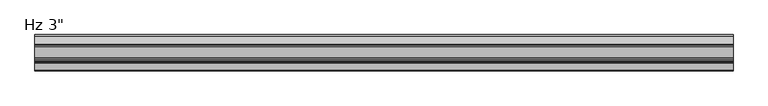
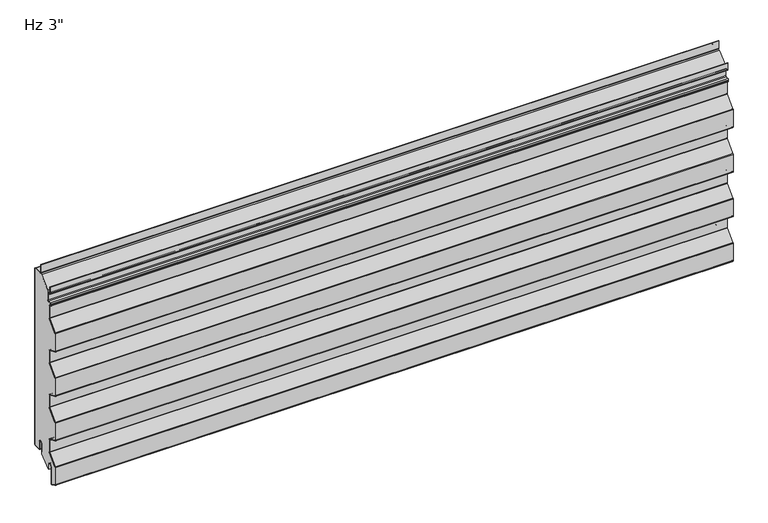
"""IFC4 building model written with IfcOpenShell, lengths in millimetres: plate geometry."""

from ifc_helpers import new_model, si_unit, point, frame, frame_2d, origin, place, context, project, spatial, polyline, circle_curve, trimmed, segment, composite_curve, outline, extrude, source, transform, mapped, element, save


def plate_fe4b7c26(model_context):
    return source(origin(), model_context, "Body", "SweptSolid", [
        extrude(outline(composite_curve([segment(polyline([(-26.4011912, 19.05), (-26.4011912, -3.1976612), (-49.233822, -23.01875), (-51.3886912, -23.01875), (-51.3886912, -11.90625)]), True, "CONTINUOUS"), segment(trimmed(circle_curve(frame_2d((-56.3574412, -11.90625)), 4.96875), [point((-51.3886912, -11.90625))], [point((-61.3261912, -11.90625))], True, "CARTESIAN"), True, "CONTINUOUS"), segment(polyline([(-61.3261912, -11.90625), (-61.3261912, -48.8194049)]), True, "CONTINUOUS"), segment(trimmed(circle_curve(frame_2d((-62.7074412, -48.8194049)), 1.38125), [point((-61.3261912, -48.8194049))], [point((-63.2666208, -50.0824052))], False, "CARTESIAN"), True, "CONTINUOUS"), segment(polyline([(-63.2666208, -50.0824052), (-74.3779296, -45.1629946)]), True, "CONTINUOUS"), segment(trimmed(circle_curve(frame_2d((-73.81875, -43.8999943)), 1.38125), [point((-74.3779296, -45.1629946))], [point((-75.2, -43.8999943))], False, "CARTESIAN"), True, "CONTINUOUS"), segment(polyline([(-75.2, -43.8999943), (-75.2, -5.0536946)]), True, "CONTINUOUS"), segment(trimmed(circle_curve(frame_2d((-73.1012, -5.0536946)), 2.0988), [point((-75.2, -5.0536946))], [point((-74.6092077, -3.5939431))], False, "CARTESIAN"), True, "CONTINUOUS"), segment(polyline([(-74.6092077, -3.5939431), (-54.4145567, 17.2682996)]), True, "CONTINUOUS"), segment(trimmed(circle_curve(frame_2d((-56.2737, 19.0679503)), 2.5875), [point((-54.4145567, 17.2682996))], [point((-53.6862, 19.0679503))], True, "CARTESIAN"), True, "CONTINUOUS"), segment(polyline([(-53.6862, 19.0679503), (-53.6862, 45.5917981)]), True, "CONTINUOUS"), segment(trimmed(circle_curve(frame_2d((-56.2737, 45.5917981)), 2.5875), [point((-53.6862, 45.5917981))], [point((-55.2261871, 47.9577806))], True, "CARTESIAN"), True, "CONTINUOUS"), segment(polyline([(-55.2261871, 47.9577806), (-74.3779296, 56.4370054)]), True, "CONTINUOUS"), segment(trimmed(circle_curve(frame_2d((-73.81875, 57.7000057)), 1.38125), [point((-74.3779296, 56.4370054))], [point((-75.2, 57.7000057))], False, "CARTESIAN"), True, "CONTINUOUS"), segment(polyline([(-75.2, 57.7000057), (-75.2, 96.8367131)]), True, "CONTINUOUS"), segment(trimmed(circle_curve(frame_2d((-73.81875, 96.8367131)), 1.38125), [point((-75.2, 96.8367131))], [point((-74.8111912, 97.7973962))], False, "CARTESIAN"), True, "CONTINUOUS"), segment(polyline([(-74.8111912, 97.7973962), (-54.4145567, 118.8682996)]), True, "CONTINUOUS"), segment(trimmed(circle_curve(frame_2d((-56.2737, 120.6679503)), 2.5875), [point((-54.4145567, 118.8682996))], [point((-53.6862, 120.6679503))], True, "CARTESIAN"), True, "CONTINUOUS"), segment(polyline([(-53.6862, 120.6679503), (-53.6862, 147.1917981)]), True, "CONTINUOUS"), segment(trimmed(circle_curve(frame_2d((-56.2737, 147.1917981)), 2.5875), [point((-53.6862, 147.1917981))], [point((-55.2261871, 149.5577806))], True, "CARTESIAN"), True, "CONTINUOUS"), segment(polyline([(-55.2261871, 149.5577806), (-74.3779296, 158.0370054)]), True, "CONTINUOUS"), segment(trimmed(circle_curve(frame_2d((-73.81875, 159.3000057)), 1.38125), [point((-74.3779296, 158.0370054))], [point((-75.2, 159.3000057))], False, "CARTESIAN"), True, "CONTINUOUS"), segment(polyline([(-75.2, 159.3000057), (-75.2, 198.4367131)]), True, "CONTINUOUS"), segment(trimmed(circle_curve(frame_2d((-73.81875, 198.4367131)), 1.38125), [point((-75.2, 198.4367131))], [point((-74.8111912, 199.3973962))], False, "CARTESIAN"), True, "CONTINUOUS"), segment(polyline([(-74.8111912, 199.3973962), (-54.4145567, 220.4682996)]), True, "CONTINUOUS"), segment(trimmed(circle_curve(frame_2d((-56.2737, 222.2679503)), 2.5875), [point((-54.4145567, 220.4682996))], [point((-53.6862, 222.2679503))], True, "CARTESIAN"), True, "CONTINUOUS"), segment(polyline([(-53.6862, 222.2679503), (-53.6862, 248.7917981)]), True, "CONTINUOUS"), segment(trimmed(circle_curve(frame_2d((-56.2737, 248.7917981)), 2.5875), [point((-53.6862, 248.7917981))], [point((-55.2261871, 251.1577806))], True, "CARTESIAN"), True, "CONTINUOUS"), segment(polyline([(-55.2261871, 251.1577806), (-74.3779296, 259.6370054)]), True, "CONTINUOUS"), segment(trimmed(circle_curve(frame_2d((-73.81875, 260.9000057)), 1.38125), [point((-74.3779296, 259.6370054))], [point((-75.2, 260.9000057))], False, "CARTESIAN"), True, "CONTINUOUS"), segment(polyline([(-75.2, 260.9000057), (-75.2, 300.0367131)]), True, "CONTINUOUS"), segment(trimmed(circle_curve(frame_2d((-73.81875, 300.0367131)), 1.38125), [point((-75.2, 300.0367131))], [point((-74.8111912, 300.9973962))], False, "CARTESIAN"), True, "CONTINUOUS"), segment(polyline([(-74.8111912, 300.9973962), (-54.4145567, 322.0682996)]), True, "CONTINUOUS"), segment(trimmed(circle_curve(frame_2d((-56.2737, 323.8679503)), 2.5875), [point((-54.4145567, 322.0682996))], [point((-53.6862, 323.8679503))], True, "CARTESIAN"), True, "CONTINUOUS"), segment(polyline([(-53.6862, 323.8679503), (-53.6862, 350.3917981)]), True, "CONTINUOUS"), segment(trimmed(circle_curve(frame_2d((-56.2737, 350.3917981)), 2.5875), [point((-53.6862, 350.3917981))], [point((-55.2261871, 352.7577806))], True, "CARTESIAN"), True, "CONTINUOUS"), segment(polyline([(-55.2261871, 352.7577806), (-56.9166208, 353.5062016)]), True, "CONTINUOUS"), segment(trimmed(circle_curve(frame_2d((-56.3574412, 354.7692019)), 1.38125), [point((-56.9166208, 353.5062016))], [point((-57.7386912, 354.7692019))], False, "CARTESIAN"), True, "CONTINUOUS"), segment(polyline([(-57.7386912, 354.7692019), (-57.7386912, 357.0967085)]), True, "CONTINUOUS"), segment(trimmed(circle_curve(frame_2d((-56.3574412, 357.0967085)), 1.38125), [point((-57.7386912, 357.0967085))], [point((-56.4297302, 358.4760655))], False, "CARTESIAN"), True, "CONTINUOUS"), segment(polyline([(-56.4297302, 358.4760655), (-50.6657719, 358.7781418)]), True, "CONTINUOUS"), segment(trimmed(circle_curve(frame_2d((-50.8011912, 361.3620957)), 2.5875), [point((-50.6657719, 358.7781418))], [point((-48.2136912, 361.3620957))], True, "CARTESIAN"), True, "CONTINUOUS"), segment(polyline([(-48.2136912, 361.3620957), (-48.2136912, 383.7892934), (-24.8719682, 404.60625), (-2.3824412, 404.60625)]), True, "CONTINUOUS"), segment(trimmed(circle_curve(frame_2d((-2.3824412, 403.225)), 1.38125), [point((-2.3824412, 404.60625))], [point((-1.0011912, 403.225))], False, "CARTESIAN"), True, "CONTINUOUS"), segment(polyline([(-1.0011912, 403.225), (-1.0011912, 3.175)]), True, "CONTINUOUS"), segment(trimmed(circle_curve(frame_2d((-2.3824412, 3.175)), 1.38125), [point((-1.0011912, 3.175))], [point((-2.3824412, 1.79375))], False, "CARTESIAN"), True, "CONTINUOUS"), segment(polyline([(-2.3824412, 1.79375), (-15.0824412, 1.79375)]), True, "CONTINUOUS"), segment(trimmed(circle_curve(frame_2d((-15.0824412, 3.175)), 1.38125), [point((-15.0824412, 1.79375))], [point((-16.4636912, 3.175))], False, "CARTESIAN"), True, "CONTINUOUS"), segment(polyline([(-16.4636912, 3.175), (-16.4636912, 19.05)]), True, "CONTINUOUS"), segment(trimmed(circle_curve(frame_2d((-21.4324412, 19.05)), 4.96875), [point((-16.4636912, 19.05))], [point((-26.4011912, 19.05))], True, "CARTESIAN"), True, "CONTINUOUS")], self_intersect=False)), frame((-730.0, 0.0, 0.0), z_axis=(1.0, 0.0, 0.0), x_axis=(0.0, 1.0, 0.0)), (0.0, 0.0, 1.0), 1460.0),
        extrude(outline(composite_curve([segment(polyline([(-25.4, 0.79375), (-26.4, 0.79375), (-26.4, 19.05)]), True, "CONTINUOUS"), segment(trimmed(circle_curve(frame_2d((-21.43125, 19.05)), 4.96875), [point((-26.4, 19.05))], [point((-16.4625, 19.05))], False, "CARTESIAN"), True, "CONTINUOUS"), segment(polyline([(-16.4625, 19.05), (-16.4625, 3.175)]), True, "CONTINUOUS"), segment(trimmed(circle_curve(frame_2d((-15.08125, 3.175)), 1.38125), [point((-16.4625, 3.175))], [point((-15.08125, 1.79375))], True, "CARTESIAN"), True, "CONTINUOUS"), segment(polyline([(-15.08125, 1.79375), (-2.38125, 1.79375)]), True, "CONTINUOUS"), segment(trimmed(circle_curve(frame_2d((-2.38125, 3.175)), 1.38125), [point((-2.38125, 1.79375))], [point((-1.0, 3.175))], True, "CARTESIAN"), True, "CONTINUOUS"), segment(polyline([(-1.0, 3.175), (-1.0, 403.225)]), True, "CONTINUOUS"), segment(trimmed(circle_curve(frame_2d((-2.38125, 403.225)), 1.38125), [point((-1.0, 403.225))], [point((-2.38125, 404.60625))], True, "CARTESIAN"), True, "CONTINUOUS"), segment(polyline([(-2.38125, 404.60625), (-19.446875, 404.60625)]), True, "CONTINUOUS"), segment(trimmed(circle_curve(frame_2d((-19.446875, 407.19375)), 2.5875), [point((-19.446875, 404.60625))], [point((-22.034375, 407.19375))], False, "CARTESIAN"), True, "CONTINUOUS"), segment(polyline([(-22.034375, 407.19375), (-22.034375, 424.65625), (-21.034375, 424.65625), (-21.034375, 407.19375)]), True, "CONTINUOUS"), segment(trimmed(circle_curve(frame_2d((-19.446875, 407.19375)), 1.5875), [point((-21.034375, 407.19375))], [point((-19.446875, 405.60625))], True, "CARTESIAN"), True, "CONTINUOUS"), segment(polyline([(-19.446875, 405.60625), (-2.38125, 405.60625)]), True, "CONTINUOUS"), segment(trimmed(circle_curve(frame_2d((-2.38125, 403.225)), 2.38125), [point((-2.38125, 405.60625))], [point((0.0, 403.225))], False, "CARTESIAN"), True, "CONTINUOUS"), segment(polyline([(0.0, 403.225), (0.0, 3.175)]), True, "CONTINUOUS"), segment(trimmed(circle_curve(frame_2d((-2.38125, 3.175)), 2.38125), [point((0.0, 3.175))], [point((-2.38125, 0.79375))], False, "CARTESIAN"), True, "CONTINUOUS"), segment(polyline([(-2.38125, 0.79375), (-15.08125, 0.79375)]), True, "CONTINUOUS"), segment(trimmed(circle_curve(frame_2d((-15.08125, 3.175)), 2.38125), [point((-15.08125, 0.79375))], [point((-17.4625, 3.175))], False, "CARTESIAN"), True, "CONTINUOUS"), segment(polyline([(-17.4625, 3.175), (-17.4625, 19.05)]), True, "CONTINUOUS"), segment(trimmed(circle_curve(frame_2d((-21.43125, 19.05)), 3.96875), [point((-17.4625, 19.05))], [point((-25.4, 19.05))], True, "CARTESIAN"), True, "CONTINUOUS"), segment(polyline([(-25.4, 19.05), (-25.4, 0.79375)]), True, "CONTINUOUS")], self_intersect=False)), frame((-730.0, 0.0, 0.0), z_axis=(1.0, 0.0, 0.0), x_axis=(0.0, 1.0, 0.0)), (0.0, 0.0, 1.0), 1460.0),
        extrude(outline(composite_curve([segment(polyline([(-60.3261912, -11.90625), (-60.3261912, -48.8194049)]), True, "CONTINUOUS"), segment(trimmed(circle_curve(frame_2d((-62.7074412, -48.8194049)), 2.38125), [point((-60.3261912, -48.8194049))], [point((-63.6714567, -50.9967946))], False, "CARTESIAN"), True, "CONTINUOUS"), segment(polyline([(-63.6714567, -50.9967946), (-74.7827655, -46.0773839)]), True, "CONTINUOUS"), segment(trimmed(circle_curve(frame_2d((-73.81875, -43.8999943)), 2.38125), [point((-74.7827655, -46.0773839))], [point((-76.2, -43.8999943))], False, "CARTESIAN"), True, "CONTINUOUS"), segment(polyline([(-76.2, -43.8999943), (-76.2, -5.0536946)]), True, "CONTINUOUS"), segment(trimmed(circle_curve(frame_2d((-73.1012, -5.0536946)), 3.0988), [point((-76.2, -5.0536946))], [point((-75.3277172, -2.8984259))], False, "CARTESIAN"), True, "CONTINUOUS"), segment(polyline([(-75.3277172, -2.8984259), (-55.1330662, 17.9638168)]), True, "CONTINUOUS"), segment(trimmed(circle_curve(frame_2d((-56.2737, 19.0679503)), 1.5875), [point((-55.1330662, 17.9638168))], [point((-54.6862, 19.0679503))], True, "CARTESIAN"), True, "CONTINUOUS"), segment(polyline([(-54.6862, 19.0679503), (-54.6862, 45.5917981)]), True, "CONTINUOUS"), segment(trimmed(circle_curve(frame_2d((-56.2737, 45.5917981)), 1.5875), [point((-54.6862, 45.5917981))], [point((-55.631023, 47.0433912))], True, "CARTESIAN"), True, "CONTINUOUS"), segment(polyline([(-55.631023, 47.0433912), (-74.7827655, 55.5226161)]), True, "CONTINUOUS"), segment(trimmed(circle_curve(frame_2d((-73.81875, 57.7000057)), 2.38125), [point((-74.7827655, 55.5226161))], [point((-76.2, 57.7000057))], False, "CARTESIAN"), True, "CONTINUOUS"), segment(polyline([(-76.2, 57.7000057), (-76.2, 96.8367131)]), True, "CONTINUOUS"), segment(trimmed(circle_curve(frame_2d((-73.81875, 96.8367131)), 2.38125), [point((-76.2, 96.8367131))], [point((-75.5297007, 98.4929134))], False, "CARTESIAN"), True, "CONTINUOUS"), segment(polyline([(-75.5297007, 98.4929134), (-55.1330662, 119.5638168)]), True, "CONTINUOUS"), segment(trimmed(circle_curve(frame_2d((-56.2737, 120.6679503)), 1.5875), [point((-55.1330662, 119.5638168))], [point((-54.6862, 120.6679503))], True, "CARTESIAN"), True, "CONTINUOUS"), segment(polyline([(-54.6862, 120.6679503), (-54.6862, 147.1917981)]), True, "CONTINUOUS"), segment(trimmed(circle_curve(frame_2d((-56.2737, 147.1917981)), 1.5875), [point((-54.6862, 147.1917981))], [point((-55.631023, 148.6433912))], True, "CARTESIAN"), True, "CONTINUOUS"), segment(polyline([(-55.631023, 148.6433912), (-74.7827655, 157.1226161)]), True, "CONTINUOUS"), segment(trimmed(circle_curve(frame_2d((-73.81875, 159.3000057)), 2.38125), [point((-74.7827655, 157.1226161))], [point((-76.2, 159.3000057))], False, "CARTESIAN"), True, "CONTINUOUS"), segment(polyline([(-76.2, 159.3000057), (-76.2, 198.4367131)]), True, "CONTINUOUS"), segment(trimmed(circle_curve(frame_2d((-73.81875, 198.4367131)), 2.38125), [point((-76.2, 198.4367131))], [point((-75.5297007, 200.0929134))], False, "CARTESIAN"), True, "CONTINUOUS"), segment(polyline([(-75.5297007, 200.0929134), (-55.1330662, 221.1638168)]), True, "CONTINUOUS"), segment(trimmed(circle_curve(frame_2d((-56.2737, 222.2679503)), 1.5875), [point((-55.1330662, 221.1638168))], [point((-54.6862, 222.2679503))], True, "CARTESIAN"), True, "CONTINUOUS"), segment(polyline([(-54.6862, 222.2679503), (-54.6862, 248.7917981)]), True, "CONTINUOUS"), segment(trimmed(circle_curve(frame_2d((-56.2737, 248.7917981)), 1.5875), [point((-54.6862, 248.7917981))], [point((-55.631023, 250.2433912))], True, "CARTESIAN"), True, "CONTINUOUS"), segment(polyline([(-55.631023, 250.2433912), (-74.7827655, 258.7226161)]), True, "CONTINUOUS"), segment(trimmed(circle_curve(frame_2d((-73.81875, 260.9000057)), 2.38125), [point((-74.7827655, 258.7226161))], [point((-76.2, 260.9000057))], False, "CARTESIAN"), True, "CONTINUOUS"), segment(polyline([(-76.2, 260.9000057), (-76.2, 300.0367131)]), True, "CONTINUOUS"), segment(trimmed(circle_curve(frame_2d((-73.81875, 300.0367131)), 2.38125), [point((-76.2, 300.0367131))], [point((-75.5297007, 301.6929134))], False, "CARTESIAN"), True, "CONTINUOUS"), segment(polyline([(-75.5297007, 301.6929134), (-55.1330662, 322.7638168)]), True, "CONTINUOUS"), segment(trimmed(circle_curve(frame_2d((-56.2737, 323.8679503)), 1.5875), [point((-55.1330662, 322.7638168))], [point((-54.6862, 323.8679503))], True, "CARTESIAN"), True, "CONTINUOUS"), segment(polyline([(-54.6862, 323.8679503), (-54.6862, 350.3917981)]), True, "CONTINUOUS"), segment(trimmed(circle_curve(frame_2d((-56.2737, 350.3917981)), 1.5875), [point((-54.6862, 350.3917981))], [point((-55.631023, 351.8433912))], True, "CARTESIAN"), True, "CONTINUOUS"), segment(polyline([(-55.631023, 351.8433912), (-57.3214567, 352.5918123)]), True, "CONTINUOUS"), segment(trimmed(circle_curve(frame_2d((-56.3574412, 354.7692019)), 2.38125), [point((-57.3214567, 352.5918123))], [point((-58.7386912, 354.7692019))], False, "CARTESIAN"), True, "CONTINUOUS"), segment(polyline([(-58.7386912, 354.7692019), (-58.7386912, 357.0967085)]), True, "CONTINUOUS"), segment(trimmed(circle_curve(frame_2d((-56.3574412, 357.0967085)), 2.38125), [point((-58.7386912, 357.0967085))], [point((-56.4820662, 359.4746951))], False, "CARTESIAN"), True, "CONTINUOUS"), segment(polyline([(-56.4820662, 359.4746951), (-50.7181078, 359.7767713)]), True, "CONTINUOUS"), segment(trimmed(circle_curve(frame_2d((-50.8011912, 361.3620957)), 1.5875), [point((-50.7181078, 359.7767713))], [point((-49.2136912, 361.3620957))], True, "CARTESIAN"), True, "CONTINUOUS"), segment(polyline([(-49.2136912, 361.3620957), (-49.2136912, 376.2375)]), True, "CONTINUOUS"), segment(trimmed(circle_curve(frame_2d((-50.8011912, 376.2375)), 1.5875), [point((-49.2136912, 376.2375))], [point((-50.8011912, 377.825))], True, "CARTESIAN"), True, "CONTINUOUS"), segment(polyline([(-50.8011912, 377.825), (-54.3730662, 377.825)]), True, "CONTINUOUS"), segment(trimmed(circle_curve(frame_2d((-54.3730662, 380.20625)), 2.38125), [point((-54.3730662, 377.825))], [point((-56.7543162, 380.20625))], False, "CARTESIAN"), True, "CONTINUOUS"), segment(polyline([(-56.7543162, 380.20625), (-56.7543162, 394.49375), (-55.7543162, 394.49375), (-55.7543162, 380.20625)]), True, "CONTINUOUS"), segment(trimmed(circle_curve(frame_2d((-54.3730662, 380.20625)), 1.38125), [point((-55.7543162, 380.20625))], [point((-54.3730662, 378.825))], True, "CARTESIAN"), True, "CONTINUOUS"), segment(polyline([(-54.3730662, 378.825), (-50.8011912, 378.825)]), True, "CONTINUOUS"), segment(trimmed(circle_curve(frame_2d((-50.8011912, 376.2375)), 2.5875), [point((-50.8011912, 378.825))], [point((-48.2136912, 376.2375))], False, "CARTESIAN"), True, "CONTINUOUS"), segment(polyline([(-48.2136912, 376.2375), (-48.2136912, 361.3620957)]), True, "CONTINUOUS"), segment(trimmed(circle_curve(frame_2d((-50.8011912, 361.3620957)), 2.5875), [point((-48.2136912, 361.3620957))], [point((-50.6657719, 358.7781418))], False, "CARTESIAN"), True, "CONTINUOUS"), segment(polyline([(-50.6657719, 358.7781418), (-56.4297302, 358.4760655)]), True, "CONTINUOUS"), segment(trimmed(circle_curve(frame_2d((-56.3574412, 357.0967085)), 1.38125), [point((-56.4297302, 358.4760655))], [point((-57.7386912, 357.0967085))], True, "CARTESIAN"), True, "CONTINUOUS"), segment(polyline([(-57.7386912, 357.0967085), (-57.7386912, 354.7692019)]), True, "CONTINUOUS"), segment(trimmed(circle_curve(frame_2d((-56.3574412, 354.7692019)), 1.38125), [point((-57.7386912, 354.7692019))], [point((-56.9166208, 353.5062016))], True, "CARTESIAN"), True, "CONTINUOUS"), segment(polyline([(-56.9166208, 353.5062016), (-55.2261871, 352.7577806)]), True, "CONTINUOUS"), segment(trimmed(circle_curve(frame_2d((-56.2737, 350.3917981)), 2.5875), [point((-55.2261871, 352.7577806))], [point((-53.6862, 350.3917981))], False, "CARTESIAN"), True, "CONTINUOUS"), segment(polyline([(-53.6862, 350.3917981), (-53.6862, 323.8679503)]), True, "CONTINUOUS"), segment(trimmed(circle_curve(frame_2d((-56.2737, 323.8679503)), 2.5875), [point((-53.6862, 323.8679503))], [point((-54.4145567, 322.0682996))], False, "CARTESIAN"), True, "CONTINUOUS"), segment(polyline([(-54.4145567, 322.0682996), (-74.8111912, 300.9973962)]), True, "CONTINUOUS"), segment(trimmed(circle_curve(frame_2d((-73.81875, 300.0367131)), 1.38125), [point((-74.8111912, 300.9973962))], [point((-75.2, 300.0367131))], True, "CARTESIAN"), True, "CONTINUOUS"), segment(polyline([(-75.2, 300.0367131), (-75.2, 260.9000057)]), True, "CONTINUOUS"), segment(trimmed(circle_curve(frame_2d((-73.81875, 260.9000057)), 1.38125), [point((-75.2, 260.9000057))], [point((-74.3779296, 259.6370054))], True, "CARTESIAN"), True, "CONTINUOUS"), segment(polyline([(-74.3779296, 259.6370054), (-55.2261871, 251.1577806)]), True, "CONTINUOUS"), segment(trimmed(circle_curve(frame_2d((-56.2737, 248.7917981)), 2.5875), [point((-55.2261871, 251.1577806))], [point((-53.6862, 248.7917981))], False, "CARTESIAN"), True, "CONTINUOUS"), segment(polyline([(-53.6862, 248.7917981), (-53.6862, 222.2679503)]), True, "CONTINUOUS"), segment(trimmed(circle_curve(frame_2d((-56.2737, 222.2679503)), 2.5875), [point((-53.6862, 222.2679503))], [point((-54.4145567, 220.4682996))], False, "CARTESIAN"), True, "CONTINUOUS"), segment(polyline([(-54.4145567, 220.4682996), (-74.8111912, 199.3973962)]), True, "CONTINUOUS"), segment(trimmed(circle_curve(frame_2d((-73.81875, 198.4367131)), 1.38125), [point((-74.8111912, 199.3973962))], [point((-75.2, 198.4367131))], True, "CARTESIAN"), True, "CONTINUOUS"), segment(polyline([(-75.2, 198.4367131), (-75.2, 159.3000057)]), True, "CONTINUOUS"), segment(trimmed(circle_curve(frame_2d((-73.81875, 159.3000057)), 1.38125), [point((-75.2, 159.3000057))], [point((-74.3779296, 158.0370054))], True, "CARTESIAN"), True, "CONTINUOUS"), segment(polyline([(-74.3779296, 158.0370054), (-55.2261871, 149.5577806)]), True, "CONTINUOUS"), segment(trimmed(circle_curve(frame_2d((-56.2737, 147.1917981)), 2.5875), [point((-55.2261871, 149.5577806))], [point((-53.6862, 147.1917981))], False, "CARTESIAN"), True, "CONTINUOUS"), segment(polyline([(-53.6862, 147.1917981), (-53.6862, 120.6679503)]), True, "CONTINUOUS"), segment(trimmed(circle_curve(frame_2d((-56.2737, 120.6679503)), 2.5875), [point((-53.6862, 120.6679503))], [point((-54.4145567, 118.8682996))], False, "CARTESIAN"), True, "CONTINUOUS"), segment(polyline([(-54.4145567, 118.8682996), (-74.8111912, 97.7973962)]), True, "CONTINUOUS"), segment(trimmed(circle_curve(frame_2d((-73.81875, 96.8367131)), 1.38125), [point((-74.8111912, 97.7973962))], [point((-75.2, 96.8367131))], True, "CARTESIAN"), True, "CONTINUOUS"), segment(polyline([(-75.2, 96.8367131), (-75.2, 57.7000057)]), True, "CONTINUOUS"), segment(trimmed(circle_curve(frame_2d((-73.81875, 57.7000057)), 1.38125), [point((-75.2, 57.7000057))], [point((-74.3779296, 56.4370054))], True, "CARTESIAN"), True, "CONTINUOUS"), segment(polyline([(-74.3779296, 56.4370054), (-55.2261871, 47.9577806)]), True, "CONTINUOUS"), segment(trimmed(circle_curve(frame_2d((-56.2737, 45.5917981)), 2.5875), [point((-55.2261871, 47.9577806))], [point((-53.6862, 45.5917981))], False, "CARTESIAN"), True, "CONTINUOUS"), segment(polyline([(-53.6862, 45.5917981), (-53.6862, 19.0679503)]), True, "CONTINUOUS"), segment(trimmed(circle_curve(frame_2d((-56.2737, 19.0679503)), 2.5875), [point((-53.6862, 19.0679503))], [point((-54.4145567, 17.2682996))], False, "CARTESIAN"), True, "CONTINUOUS"), segment(polyline([(-54.4145567, 17.2682996), (-74.6092077, -3.5939431)]), True, "CONTINUOUS"), segment(trimmed(circle_curve(frame_2d((-73.1012, -5.0536946)), 2.0988), [point((-74.6092077, -3.5939431))], [point((-75.2, -5.0536946))], True, "CARTESIAN"), True, "CONTINUOUS"), segment(polyline([(-75.2, -5.0536946), (-75.2, -43.8999943)]), True, "CONTINUOUS"), segment(trimmed(circle_curve(frame_2d((-73.81875, -43.8999943)), 1.38125), [point((-75.2, -43.8999943))], [point((-74.3779296, -45.1629946))], True, "CARTESIAN"), True, "CONTINUOUS"), segment(polyline([(-74.3779296, -45.1629946), (-63.2666208, -50.0824052)]), True, "CONTINUOUS"), segment(trimmed(circle_curve(frame_2d((-62.7074412, -48.8194049)), 1.38125), [point((-63.2666208, -50.0824052))], [point((-61.3261912, -48.8194049))], True, "CARTESIAN"), True, "CONTINUOUS"), segment(polyline([(-61.3261912, -48.8194049), (-61.3261912, -11.90625)]), True, "CONTINUOUS"), segment(trimmed(circle_curve(frame_2d((-56.3574412, -11.90625)), 4.96875), [point((-61.3261912, -11.90625))], [point((-51.3886912, -11.90625))], False, "CARTESIAN"), True, "CONTINUOUS"), segment(polyline([(-51.3886912, -11.90625), (-51.3886912, -23.01875), (-52.3886912, -23.01875), (-52.3886912, -11.90625)]), True, "CONTINUOUS"), segment(trimmed(circle_curve(frame_2d((-56.3574412, -11.90625)), 3.96875), [point((-52.3886912, -11.90625))], [point((-60.3261912, -11.90625))], True, "CARTESIAN"), True, "CONTINUOUS")], self_intersect=False)), frame((-730.0, 0.0, 0.0), z_axis=(1.0, 0.0, 0.0), x_axis=(0.0, 1.0, 0.0)), (0.0, 0.0, 1.0), 1460.0),
    ])


if __name__ == "__main__":
    model = new_model("IFC4")
    model_context = context("Model", 3, world=origin())
    ifc_project = project(units=[si_unit("LENGTHUNIT", "METRE", prefix="MILLI")], contexts=[model_context])
    site = spatial("IfcSite", under=ifc_project)
    building = spatial("IfcBuilding", under=site)
    placement = place(None, origin())
    plate_shape = plate_fe4b7c26(model_context)
    element("IfcPlate", 1, ObjectType="KIP-16-DWR-R19-CP-Hz-S : Hz 3\"", at=placement, inside=building, context=model_context, shape_type="MappedRepresentation", body=[
        mapped(plate_shape, transform((0.0, 0.0, 0.0), x_axis=(1.0, 0.0, 0.0), y_axis=(0.0, 1.0, 0.0), z_axis=(0.0, 0.0, 1.0))),
    ])
    save(model, "model.ifc")
